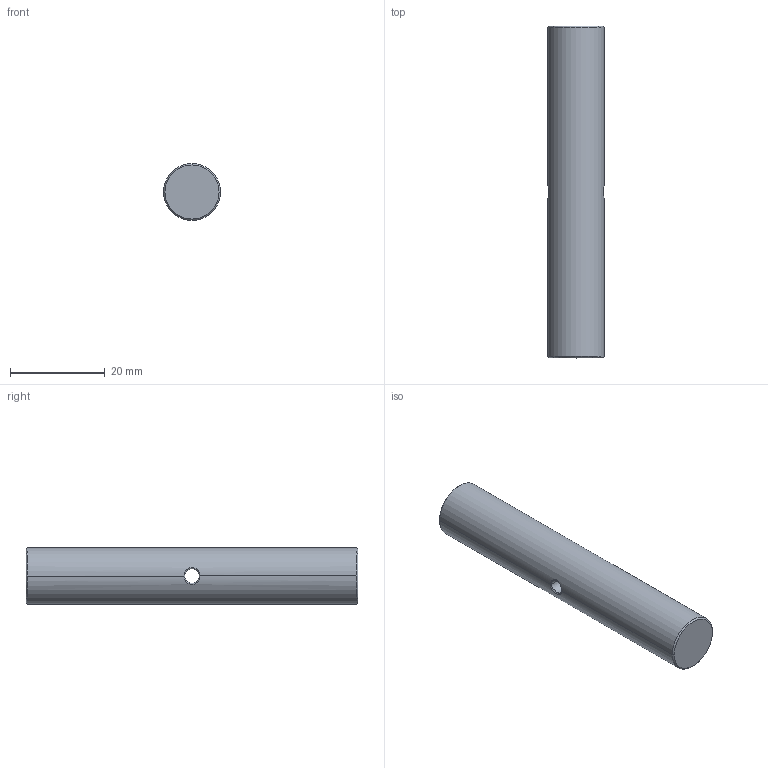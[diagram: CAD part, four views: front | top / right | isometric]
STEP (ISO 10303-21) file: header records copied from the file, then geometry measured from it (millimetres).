
FILE_DESCRIPTION((''),'2;1');
FILE_NAME('PCA70-M4','2020-12-11T',('Administrator'),(''),'CREO PARAMETRIC BY PTC INC, 2015290','CREO PARAMETRIC BY PTC INC, 2015290','');
FILE_SCHEMA(('CONFIG_CONTROL_DESIGN'));
Length unit declared in the file: millimetre
Products named in the file (1): PCA70-M4
Bounding box: 12 x 70 x 12 mm (x, y, z)
Volume: 7750.2 mm3; surface area: 3075 mm2
Topology: 1 solids, 1 shells, 47 faces, 123 edges, 75 vertices
Faces by surface type: cylinder 23, bspline 14, cone 8, plane 2
Entity records: 3362 total; most frequent: CARTESIAN_POINT 2336, ORIENTED_EDGE 242, DIRECTION 139, EDGE_CURVE 121, VERTEX_POINT 75, B_SPLINE_CURVE_WITH_KNOTS 62, EDGE_LOOP 48, AXIS2_PLACEMENT_3D 47
